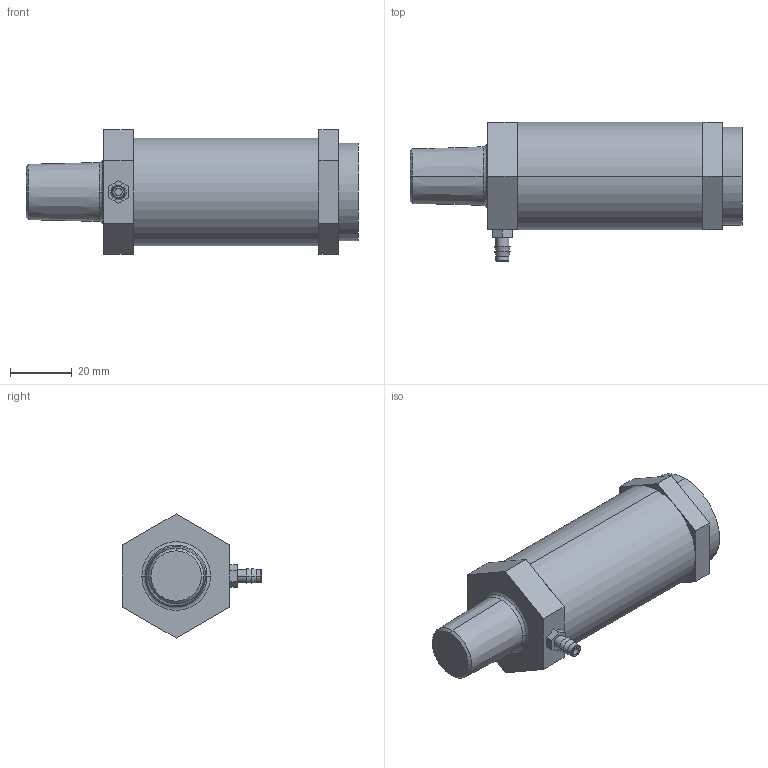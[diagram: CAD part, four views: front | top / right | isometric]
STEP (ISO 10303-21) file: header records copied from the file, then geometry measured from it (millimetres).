
FILE_DESCRIPTION((''),'2;1');
FILE_NAME('XD3_ASM','2017-08-24T',('jennifer.elliott'),('CenterLine (Windsor) Ltd - Automation Components Division'),'PRO/ENGINEER BY PARAMETRIC TECHNOLOGY CORPORATION, 2015030','PRO/ENGINEER BY PARAMETRIC TECHNOLOGY CORPORATION, 2015030','');
FILE_SCHEMA(('AUTOMOTIVE_DESIGN { 1 0 10303 214 1 1 1 1 }'));
Length unit declared in the file: inch
Products named in the file (6): PRT1003; PRT1004; PRT1005; PRT1006; PRT1007; XD3_ASM
Assembly tree (5 placements, depth 2):
  XD3_ASM
    PRT1003
    PRT1004
    PRT1005
    PRT1006
    PRT1007
Bounding box: 107.82 x 45.24 x 40.33 mm (x, y, z)
Volume: 86608.2 mm3; surface area: 18584.5 mm2
Topology: 5 solids, 5 shells, 58 faces, 123 edges, 79 vertices
Faces by surface type: plane 32, cylinder 10, torus 8, cone 8
Entity records: 1951 total; most frequent: DIRECTION 312, CARTESIAN_POINT 287, ORIENTED_EDGE 246, EDGE_CURVE 123, AXIS2_PLACEMENT_3D 120, VERTEX_POINT 79, VECTOR 72, LINE 72
